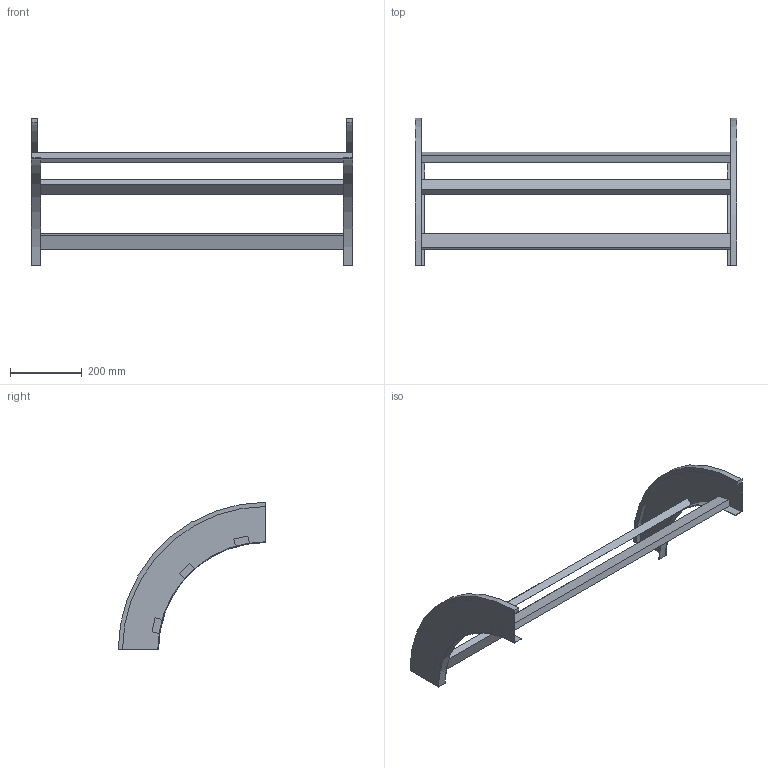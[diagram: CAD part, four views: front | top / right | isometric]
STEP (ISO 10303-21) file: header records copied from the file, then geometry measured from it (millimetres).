
FILE_DESCRIPTION (( 'STEP AP214' ), '1' );
FILE_NAME ('B2_33B3J900.step', '2025-02-21T15:04:29', ( '' ), ( '' ), 'SwSTEP 2.0', 'SolidWorks 2023', '' );
FILE_SCHEMA (( 'AUTOMOTIVE_DESIGN' ));
Length unit declared in the file: millimetre
Products named in the file (3): TRAVERSINO_900; B2_33B3J900; B2_LONGH.DISCESA_90°_H112.5_R300
Assembly tree (5 placements, depth 2):
  B2_33B3J900
    B2_LONGH.DISCESA_90°_H112.5_R300  x2
    TRAVERSINO_900  x3
Bounding box: 900 x 412.5 x 412.5 mm (x, y, z)
Volume: 2721574.3 mm3; surface area: 676417.9 mm2
Topology: 5 solids, 5 shells, 38 faces, 84 edges, 56 vertices
Faces by surface type: plane 30, cylinder 8
Entity records: 560 total; most frequent: DIRECTION 92, CARTESIAN_POINT 84, ORIENTED_EDGE 72, EDGE_CURVE 36, AXIS2_PLACEMENT_3D 32, VECTOR 28, LINE 28, VERTEX_POINT 24
